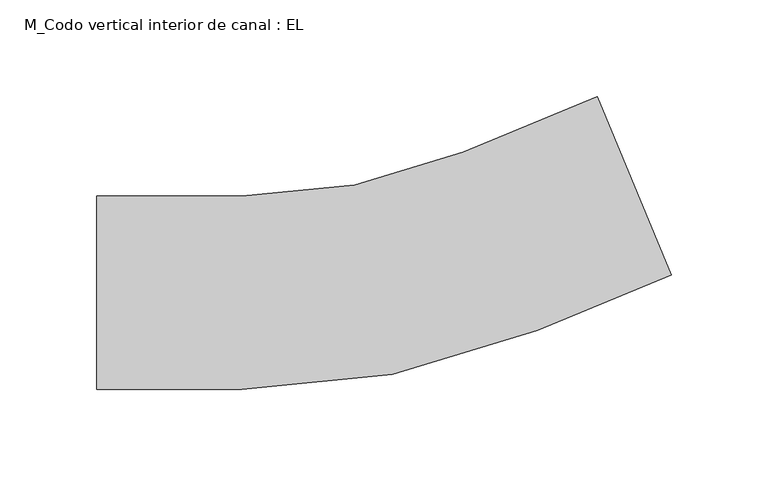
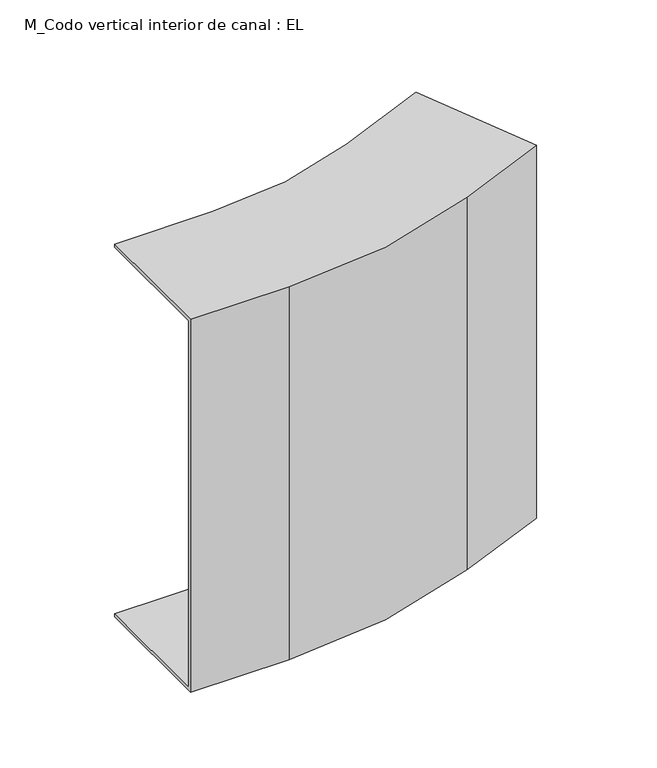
"""IFC4 building model written with IfcOpenShell, lengths in millimetres: cable carrier fitting geometry, M_Codo vertical interior de canal : EL."""

from ifc_helpers import new_model, si_unit, frame, origin, place, context, project, spatial, polyline, circle_curve, source, transform, mapped, element, save
from ifc_brep_helpers import plane_surface, cylinder_surface, revolved_surface, advanced_brep


def m_codo_vertical_interior_de_canal_el_a775c4ca(model_context):
    return source(origin(), model_context, "Body", "AdvancedBrep", [
        advanced_brep(
        [(-144.6193286, 50.0, 150.0), (-144.6193286, 50.0, 147.46), (-144.6193286, -47.46, 147.46), (-144.6193286, -47.46, -147.46), (-144.6193286, 50.0, -147.46), (-144.6193286, 50.0, -150.0), (-144.6193286, -50.0, -150.0), (-144.6193286, -50.0, 150.0), (114.4766661, 101.5373977, 150.0), (152.7450093, 9.1494444, 150.0), (152.7450093, 9.1494444, -150.0), (114.4766661, 101.5373977, -150.0), (114.4766661, 101.5373977, -147.46), (151.7729934, 11.4960984, -147.46), (151.7729934, 11.4960984, 147.46), (114.4766661, 101.5373977, 147.46), (-69.6193286, -50.0, 150.0), (83.4540444, -19.551813, 150.0), (45.1857011, 72.8361402, 150.0), (-69.6193286, 50.0, 150.0), (-69.6193286, -50.0, -150.0), (-69.6193286, 50.0, -150.0), (45.1857011, 72.8361402, -150.0), (83.4540444, -19.551813, -150.0), (-69.6193286, 50.0, -147.46), (-69.6193286, -47.46, -147.46), (82.4820284, -17.205159, -147.46), (45.1857011, 72.8361402, -147.46), (-69.6193286, -47.46, 147.46), (-69.6193286, 50.0, 147.46), (45.1857011, 72.8361402, 147.46), (82.4820284, -17.205159, 147.46)],
        [
            (0, 1),
            (1, 2),
            (2, 3),
            (3, 4),
            (4, 5),
            (5, 6),
            (6, 7),
            (7, 0),
            (8, 9),
            (9, 10),
            (10, 11),
            (11, 12),
            (12, 13),
            (13, 14),
            (14, 15),
            (15, 8),
            (7, 16),
            (16, 17, circle_curve(frame((-69.6193286, 350.0, 150.0), z_axis=(0.0, 0.0, 1.0), x_axis=(0.0, -1.0, 0.0)), 400.0)),
            (17, 9),
            (8, 18),
            (18, 19, circle_curve(frame((-69.6193286, 350.0, 150.0), z_axis=(0.0, 0.0, -1.0), x_axis=(0.0, -1.0, 0.0)), 300.0)),
            (19, 0),
            (6, 20),
            (20, 16),
            (5, 21),
            (21, 22, circle_curve(frame((-69.6193286, 350.0, -150.0), z_axis=(0.0, 0.0, 1.0), x_axis=(0.0, -1.0, 0.0)), 300.0)),
            (22, 11),
            (10, 23),
            (23, 20, circle_curve(frame((-69.6193286, 350.0, -150.0), z_axis=(0.0, 0.0, -1.0), x_axis=(0.0, -1.0, 0.0)), 400.0)),
            (4, 24),
            (24, 21),
            (3, 25),
            (25, 26, circle_curve(frame((-69.6193286, 350.0, -147.46), z_axis=(0.0, 0.0, 1.0), x_axis=(0.0, -1.0, 0.0)), 397.46)),
            (26, 13),
            (12, 27),
            (27, 24, circle_curve(frame((-69.6193286, 350.0, -147.46), z_axis=(0.0, 0.0, -1.0), x_axis=(0.0, -1.0, 0.0)), 300.0)),
            (2, 28),
            (28, 25),
            (1, 29),
            (29, 30, circle_curve(frame((-69.6193286, 350.0, 147.46), z_axis=(0.0, 0.0, 1.0), x_axis=(0.0, -1.0, 0.0)), 300.0)),
            (30, 15),
            (14, 31),
            (31, 28, circle_curve(frame((-69.6193286, 350.0, 147.46), z_axis=(0.0, 0.0, -1.0), x_axis=(0.0, -1.0, 0.0)), 397.46)),
            (19, 29),
            (23, 17),
            (27, 22),
            (31, 26),
            (18, 30),
        ],
        [
            plane_surface(frame((-144.6193286, 0.0, 0.0), z_axis=(-1.0, 0.0, 0.0), x_axis=(0.0, 0.0, 1.0))),
            plane_surface(frame((133.6108377, 55.343421, 0.0), z_axis=(0.9238795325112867, 0.38268343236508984, 0.0), x_axis=(0.0, 0.0, 1.0))),
            plane_surface(frame((-144.6193286, -50.0, 150.0), z_axis=(0.0, 0.0, 1.0), x_axis=(1.0, 0.0, 0.0))),
            plane_surface(frame((-144.6193286, -50.0, -150.0), z_axis=(0.0, -1.0, 0.0), x_axis=(1.0, 0.0, 0.0))),
            plane_surface(frame((-144.6193286, 50.0, -150.0), z_axis=(0.0, 0.0, -1.0), x_axis=(1.0, 0.0, 0.0))),
            plane_surface(frame((-144.6193286, 50.0, -147.46), z_axis=(0.0, 1.0, 0.0), x_axis=(1.0, 0.0, 0.0))),
            plane_surface(frame((-144.6193286, -47.46, -147.46), z_axis=(0.0, 0.0, 1.0), x_axis=(1.0, 0.0, 0.0))),
            plane_surface(frame((-144.6193286, -47.46, 147.46), z_axis=(0.0, 1.0, 0.0), x_axis=(1.0, 0.0, 0.0))),
            plane_surface(frame((-144.6193286, 50.0, 147.46), z_axis=(0.0, 0.0, -1.0), x_axis=(1.0, 0.0, 0.0))),
            plane_surface(frame((-144.6193286, 50.0, 150.0), z_axis=(0.0, 1.0, 0.0), x_axis=(1.0, 0.0, 0.0))),
            cylinder_surface(frame((-69.6193286, 350.0, 0.0), z_axis=(0.0, 0.0, 1.0), x_axis=(0.0, -1.0, 0.0)), 400.0),
            revolved_surface(polyline([(-69.6193286, 50.0, -147.46), (-69.6193286, 50.0, -150.0)]), (-69.6193286, 350.0, 0.0), (0.0, 0.0, 1.0)),
            revolved_surface(polyline([(-69.6193286, -47.45999999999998, 147.46), (-69.6193286, -47.45999999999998, -147.46)]), (-69.6193286, 350.0, 0.0), (0.0, 0.0, 1.0)),
            revolved_surface(polyline([(-69.6193286, 50.0, 150.0), (-69.6193286, 50.0, 147.46)]), (-69.6193286, 350.0, 0.0), (0.0, 0.0, 1.0)),
            plane_surface(frame((83.4540444, -19.551813, -150.0), z_axis=(0.38268343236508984, -0.9238795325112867, 0.0), x_axis=(0.9238795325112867, 0.38268343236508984, 0.0))),
            plane_surface(frame((45.1857011, 72.8361402, -147.46), z_axis=(-0.3826834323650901, 0.9238795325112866, 0.0), x_axis=(0.9238795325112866, 0.3826834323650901, 0.0))),
            plane_surface(frame((82.4820284, -17.205159, 147.46), z_axis=(-0.38268343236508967, 0.9238795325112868, 0.0), x_axis=(0.9238795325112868, 0.38268343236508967, 0.0))),
            plane_surface(frame((45.1857011, 72.8361402, 150.0), z_axis=(-0.3826834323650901, 0.9238795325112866, 0.0), x_axis=(0.9238795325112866, 0.3826834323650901, 0.0))),
        ],
        [
            (0, [[1, 2, 3, 4, 5, 6, 7, 8]]),
            (1, [[9, 10, 11, 12, 13, 14, 15, 16]]),
            (2, [[-8, 17, 18, 19, -9, 20, 21, 22]]),
            (3, [[-7, 23, 24, -17]]),
            (4, [[-6, 25, 26, 27, -11, 28, 29, -23]]),
            (5, [[-5, 30, 31, -25]]),
            (6, [[-4, 32, 33, 34, -13, 35, 36, -30]]),
            (7, [[-3, 37, 38, -32]]),
            (8, [[-2, 39, 40, 41, -15, 42, 43, -37]]),
            (9, [[-1, -22, 44, -39]]),
            (10, [[-18, -24, -29, 45]]),
            (11, [[-26, -31, -36, 46]]),
            (12, [[-33, -38, -43, 47]]),
            (13, [[-40, -44, -21, 48]]),
            (14, [[-45, -28, -10, -19]]),
            (15, [[-46, -35, -12, -27]]),
            (16, [[-47, -42, -14, -34]]),
            (17, [[-48, -20, -16, -41]]),
        ],
    ),
    ])


if __name__ == "__main__":
    model = new_model("IFC4")
    model_context = context("Model", 3, world=origin())
    ifc_project = project(units=[si_unit("LENGTHUNIT", "METRE", prefix="MILLI")], contexts=[model_context])
    site = spatial("IfcSite", under=ifc_project)
    building = spatial("IfcBuilding", under=site)
    placement = place(None, origin())
    m_codo_vertical_interior_de_canal_el_shape = m_codo_vertical_interior_de_canal_el_a775c4ca(model_context)
    element("IfcCableCarrierFitting", 1, ObjectType="M_Codo vertical interior de canal : EL", at=placement, inside=building, context=model_context, shape_type="MappedRepresentation", body=[
        mapped(m_codo_vertical_interior_de_canal_el_shape, transform((0.0, 0.0, 0.0), x_axis=(1.0, 0.0, 0.0), y_axis=(0.0, 1.0, 0.0), z_axis=(0.0, 0.0, 1.0))),
    ])
    save(model, "model.ifc")
